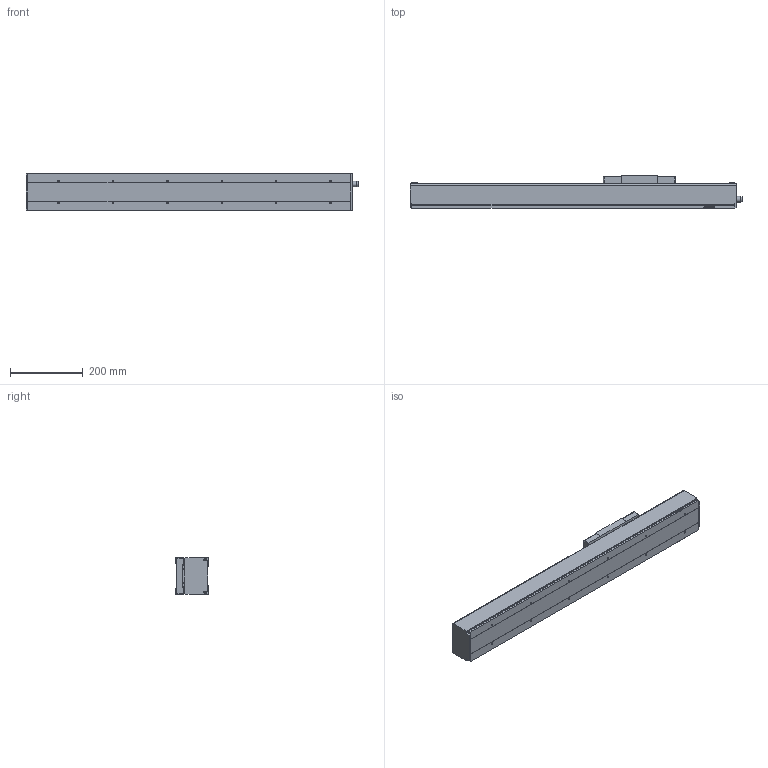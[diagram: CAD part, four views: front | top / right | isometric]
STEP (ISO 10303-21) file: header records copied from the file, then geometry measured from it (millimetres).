
FILE_DESCRIPTION(/* description */ (''),/* implementation_level */ '2;1');
FILE_NAME(/* name */ 'D:\混合母檔20191031\混和母檔\混和母檔\bin\Debug\Download\3D\KS100-10C-500AFI\KS100-10C-500AFI.stp',/* time_stamp */ '2019-11-04T14:47:42+08:00',/* author */ ('user'),/* organization */ (''),/* preprocessor_version */ 'ST-DEVELOPER v16.13',/* originating_system */ 'Autodesk Inventor 2018',/* authorisation */ '');
FILE_SCHEMA (('AUTOMOTIVE_DESIGN { 1 0 10303 214 3 1 1 }'));
Length unit declared in the file: millimetre
Products named in the file (3): KS100-10C-500AFI; KS100-FI; KS100-SL
Assembly tree (2 placements, depth 2):
  KS100-10C-500AFI
    KS100-FI
    KS100-SL
Bounding box: 915.5 x 89 x 102.4 mm (x, y, z)
Volume: 2208161.3 mm3; surface area: 705440.6 mm2
Topology: 3 solids, 7 shells, 650 faces, 1790 edges, 1178 vertices
Faces by surface type: plane 345, bspline 136, cylinder 76, cone 73, torus 16, sphere 4
Full cylindrical faces by diameter (mm): 2.459 x4, 3.242 x4, 3.571 x8, 4 x4, 4.134 x12, 4.3 x4, 6 x7, 8 x4, 8.4 x4, 14 x1, 15.538 x1, 28 x1, 30 x1
Entity records: 24598 total; most frequent: CARTESIAN_POINT 9334, ORIENTED_EDGE 3300, DIRECTION 2669, EDGE_CURVE 1650, VERTEX_POINT 1134, LINE 1057, VECTOR 1057, EDGE_LOOP 814
